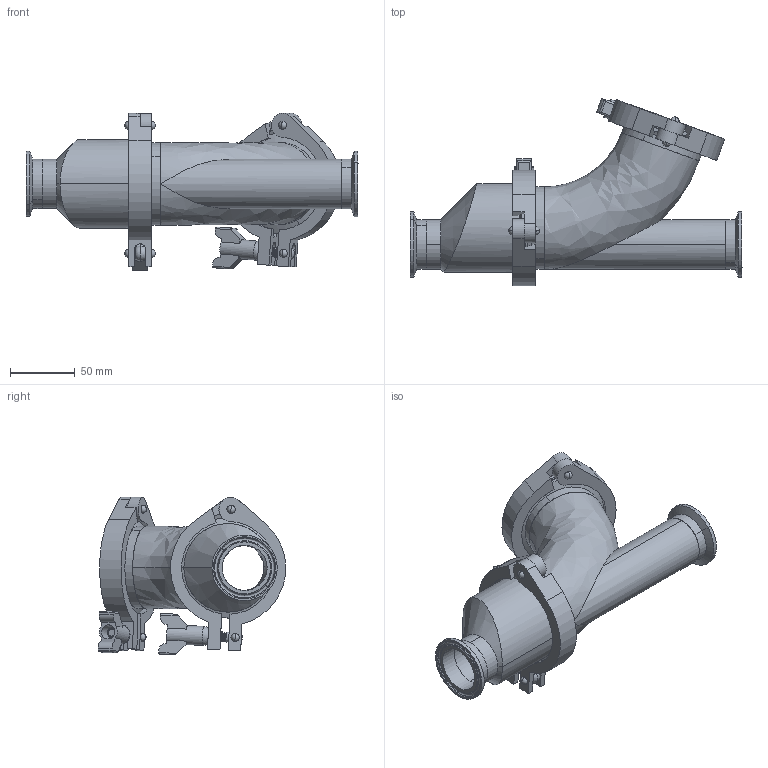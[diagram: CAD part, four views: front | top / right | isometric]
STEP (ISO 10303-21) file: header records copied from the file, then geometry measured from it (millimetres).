
FILE_DESCRIPTION (( 'STEP AP203' ), '1' );
FILE_NAME ('EG45BY-61.5.STEP', '2019-11-14T20:24:01', ( 'vneprd' ), ( 'Microsoft' ), 'SwSTEP 2.0', 'SolidWorks 2018', '' );
FILE_SCHEMA (( 'CONFIG_CONTROL_DESIGN' ));
Length unit declared in the file: inch
Products named in the file (1): EG45BY-61.5
Bounding box: 255.91 x 144.57 x 121.74 mm (x, y, z)
Volume: 317438.7 mm3; surface area: 188832.1 mm2
Topology: 21 solids, 21 shells, 511 faces, 1258 edges, 804 vertices
Faces by surface type: cylinder 238, plane 123, torus 68, cone 40, sphere 28, bspline 14
Entity records: 32304 total; most frequent: CARTESIAN_POINT 20559, ORIENTED_EDGE 2500, DIRECTION 2446, EDGE_CURVE 1250, AXIS2_PLACEMENT_3D 996, VERTEX_POINT 800, EDGE_LOOP 572, FACE_OUTER_BOUND 511
